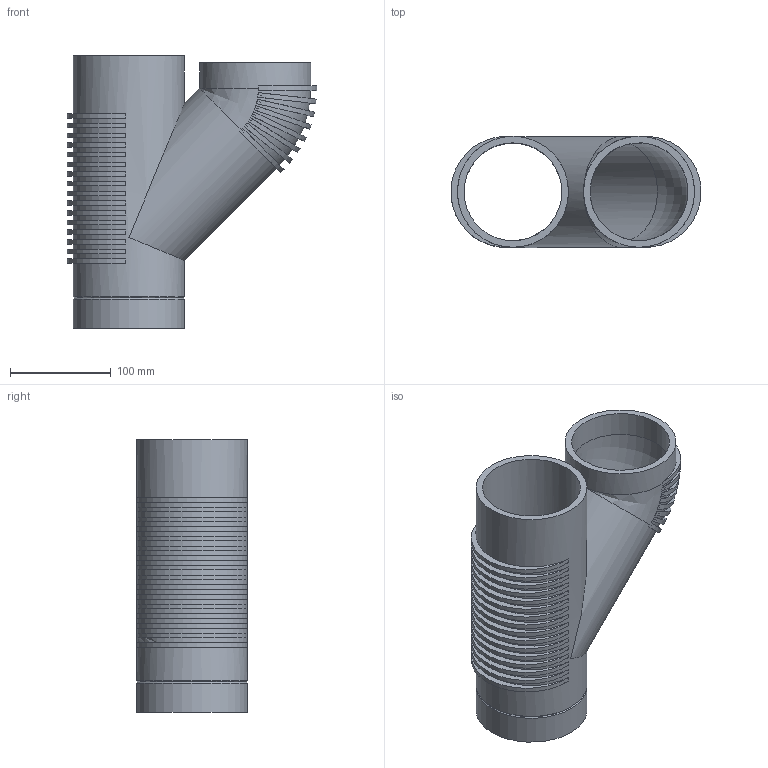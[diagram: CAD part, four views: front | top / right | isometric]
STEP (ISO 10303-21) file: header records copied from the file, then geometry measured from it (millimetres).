
FILE_DESCRIPTION(/* description */ (''),/* implementation_level */ '2;1');
FILE_NAME(/* name */ 'Z:\Geberit\Export\NewStep\310101.stp',/* time_stamp */ '2014-04-01T20:07:51+02:00',/* author */ ('P. Burger'),/* organization */ (''),/* preprocessor_version */ 'ST-DEVELOPER v15.2',/* originating_system */ 'Autodesk Inventor 2014',/* authorisation */ '');
FILE_SCHEMA (('AUTOMOTIVE_DESIGN { 1 0 10303 214 3 1 1 }'));
Length unit declared in the file: millimetre
Products named in the file (1): 310101
Bounding box: 247.6 x 110 x 270 mm (x, y, z)
Volume: 920469.6 mm3; surface area: 307213.1 mm2
Topology: 1 solids, 1 shells, 100 faces, 287 edges, 187 vertices
Faces by surface type: plane 51, cylinder 45, cone 2, bspline 1, torus 1
Full cylindrical faces by diameter (mm): 97 x3, 110 x4
Entity records: 3343 total; most frequent: CARTESIAN_POINT 932, DIRECTION 506, ORIENTED_EDGE 440, AXIS2_PLACEMENT_3D 228, EDGE_CURVE 220, VERTEX_POINT 149, EDGE_LOOP 137, CIRCLE 124
